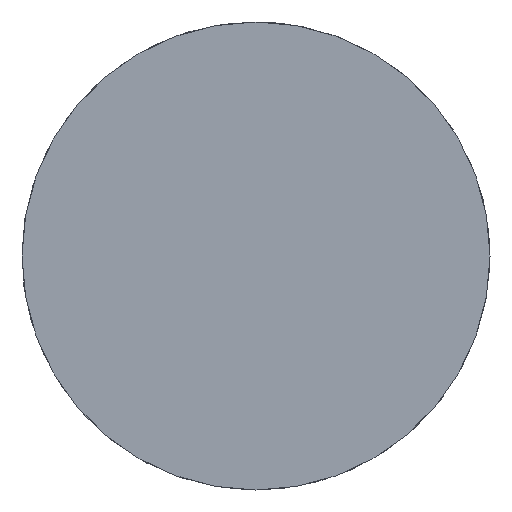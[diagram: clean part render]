
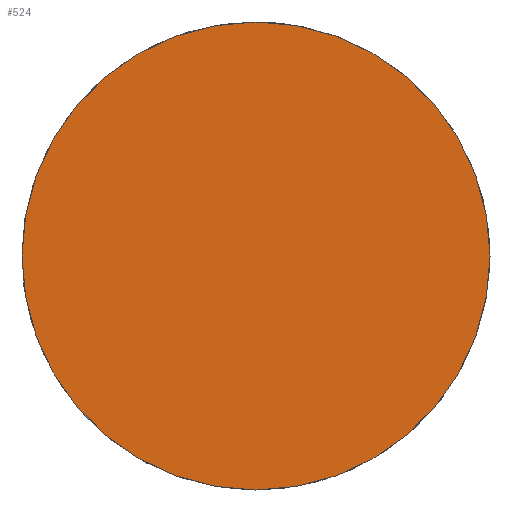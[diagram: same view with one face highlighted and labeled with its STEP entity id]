
A CAD part, left-side view. The second image highlights one B-rep face of the part: STEP entity #524.
In plain terms, the highlighted planar face has unit normal (-1, 0, 0).
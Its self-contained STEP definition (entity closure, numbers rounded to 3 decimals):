
#477=CARTESIAN_POINT('',(-691.681,-604.626,-19.626));
#478=VERTEX_POINT('',#477);
#485=CARTESIAN_POINT('',(-691.681,-521.626,-19.626));
#486=VERTEX_POINT('',#485);
#487=CARTESIAN_POINT('',(-691.681,-563.126,-19.626));
#488=DIRECTION('',(-1.0,0.0,0.0));
#489=DIRECTION('',(0.0,-1.0,0.0));
#490=AXIS2_PLACEMENT_3D('',#487,#488,#489);
#491=CIRCLE('',#490,41.5);
#492=EDGE_CURVE('',#486,#478,#491,.T.);
#494=CARTESIAN_POINT('',(-691.681,-563.126,-19.626));
#495=DIRECTION('',(-1.0,0.0,0.0));
#496=DIRECTION('',(0.0,-1.0,0.0));
#497=AXIS2_PLACEMENT_3D('',#494,#495,#496);
#498=CIRCLE('',#497,41.5);
#499=EDGE_CURVE('',#478,#486,#498,.T.);
#515=CARTESIAN_POINT('',(-691.681,-513.326,-69.426));
#516=DIRECTION('',(-1.0,0.0,0.0));
#517=DIRECTION('',(0.0,-1.0,0.0));
#518=AXIS2_PLACEMENT_3D('',#515,#516,#517);
#519=PLANE('',#518);
#520=ORIENTED_EDGE('',*,*,#499,.T.);
#521=ORIENTED_EDGE('',*,*,#492,.T.);
#522=EDGE_LOOP('',(#520,#521));
#523=FACE_OUTER_BOUND('',#522,.T.);
#524=ADVANCED_FACE('',(#523),#519,.T.);
